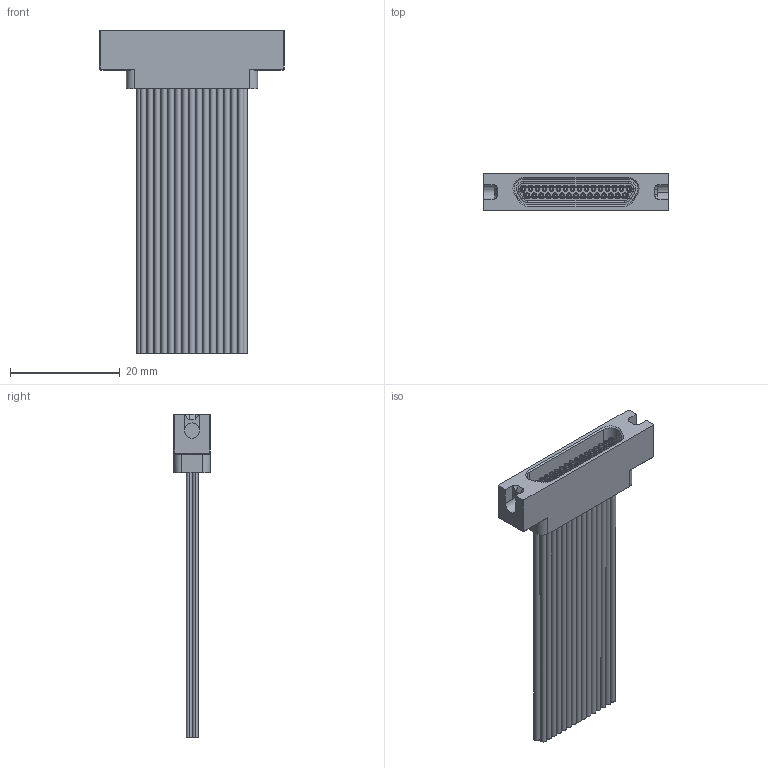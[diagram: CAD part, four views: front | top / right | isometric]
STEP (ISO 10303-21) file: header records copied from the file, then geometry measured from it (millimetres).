
FILE_DESCRIPTION (( 'STEP AP214' ), '1' );
FILE_NAME ('A99150-031 REV B.STEP', '2014-01-16T15:16:39', ( '' ), ( '' ), 'SwSTEP 2.0', 'SolidWorks 2012', '' );
FILE_SCHEMA (( 'AUTOMOTIVE_DESIGN' ));
Length unit declared in the file: inch
Products named in the file (1): A99150-031 REV B
Bounding box: 33.66 x 6.62 x 58.88 mm (x, y, z)
Volume: 3031.8 mm3; surface area: 7736.7 mm2
Topology: 1 solids, 34 shells, 928 faces, 2071 edges, 1351 vertices
Faces by surface type: cylinder 471, plane 342, torus 70, bspline 36, cone 9
Entity records: 28464 total; most frequent: CARTESIAN_POINT 6889, DIRECTION 4850, ORIENTED_EDGE 4142, EDGE_CURVE 2071, AXIS2_PLACEMENT_3D 1974, VERTEX_POINT 1351, EDGE_LOOP 1130, CIRCLE 1081
